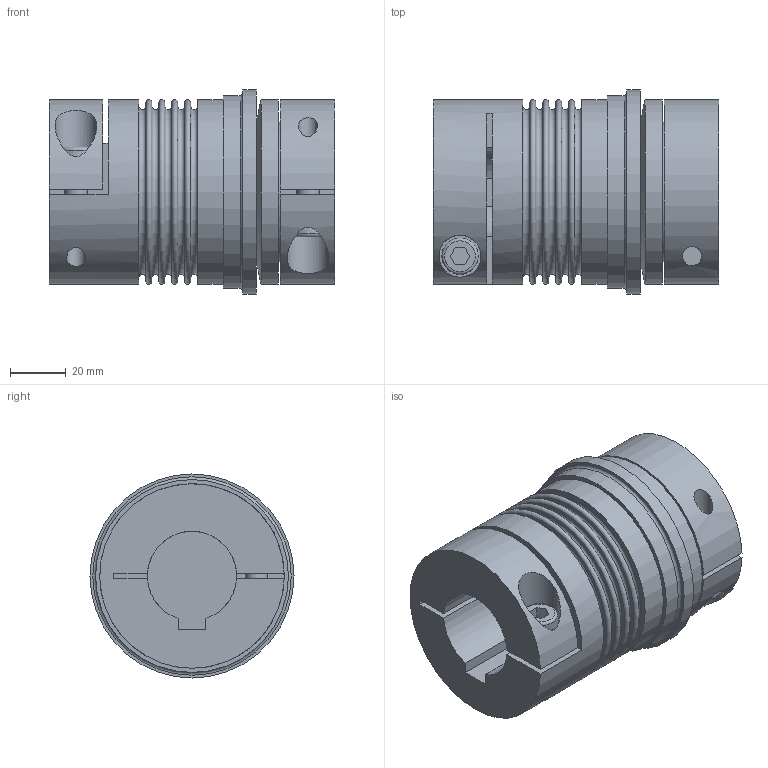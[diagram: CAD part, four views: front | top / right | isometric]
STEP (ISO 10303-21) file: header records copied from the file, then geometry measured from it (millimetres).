
FILE_DESCRIPTION(/* description */ ('STEP AP214'),/* implementation_level */ '2;1');
FILE_NAME(/* name */ 'C:\Diequa Files\DieQua Coupling\TB2\STP\TB2.60.102.WDG.#.#.stp',/* time_stamp */ '2019-04-26T10:41:52-05:00',/* author */ ('DiequaCAD'),/* organization */ (''),/* preprocessor_version */ 'ST-DEVELOPER v18',/* originating_system */ 'Autodesk Inventor 2020',/* authorisation */ ' ');
FILE_SCHEMA (('AUTOMOTIVE_DESIGN { 1 0 10303 214 3 1 1 }'));
Length unit declared in the file: millimetre
Products named in the file (1): TB2.60.102.WDG.#.#
Bounding box: 102 x 73 x 73 mm (x, y, z)
Volume: 283581.7 mm3; surface area: 53428.4 mm2
Topology: 1 solids, 1 shells, 90 faces, 212 edges, 148 vertices
Faces by surface type: plane 57, cylinder 20, torus 12, cone 1
Full cylindrical faces by diameter (mm): 6.8 x2, 8 x2, 9 x2, 13 x2, 15 x2, 50 x1, 66 x3, 69 x1, 73 x1
Entity records: 2857 total; most frequent: CARTESIAN_POINT 603, DIRECTION 491, ORIENTED_EDGE 424, EDGE_CURVE 212, AXIS2_PLACEMENT_3D 194, VERTEX_POINT 148, EDGE_LOOP 118, LINE 103
